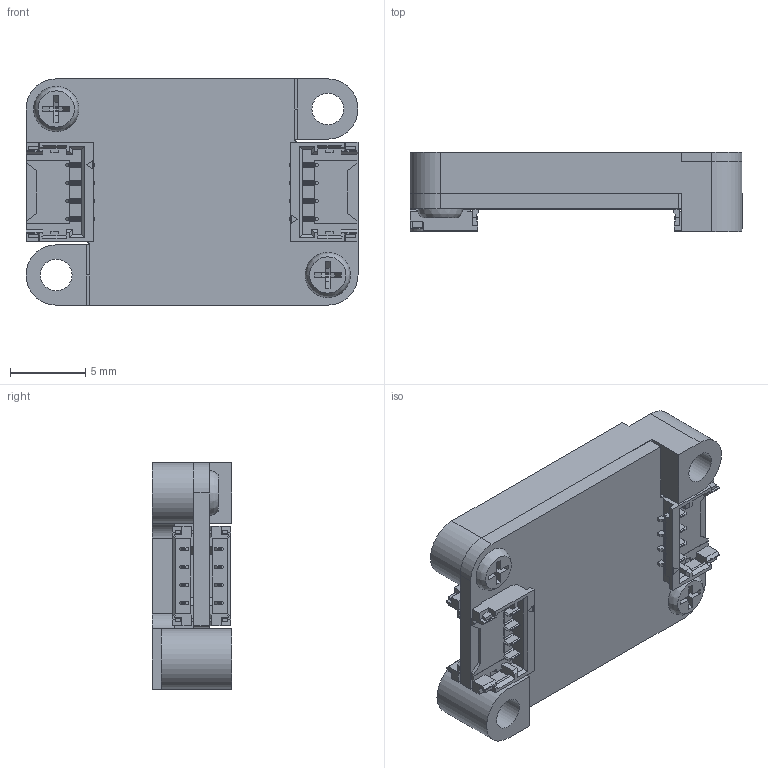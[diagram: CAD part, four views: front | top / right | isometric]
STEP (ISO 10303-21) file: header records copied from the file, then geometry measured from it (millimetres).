
FILE_DESCRIPTION(/* description */ (''),/* implementation_level */ '2;1');
FILE_NAME(/* name */ 'G:\共用雲端硬碟\研發部\RD Project\Inventor Mechanical Design Files\FSS-15 Fine Sun Sensor for Nano-Satellite Attitude Determination\V2.2\FSS-15 V2.2 for Customer.stp',/* time_stamp */ '2022-11-30T19:17:01+08:00',/* author */ ('thoma'),/* organization */ (''),/* preprocessor_version */ 'ST-DEVELOPER v19',/* originating_system */ 'Autodesk Inventor 2023',/* authorisation */ '');
FILE_SCHEMA (('AUTOMOTIVE_DESIGN { 1 0 10303 214 3 1 1 }'));
Length unit declared in the file: millimetre
Products named in the file (6): FSS100 V2 Assembly; FSSV2 PCB Board; FSS Proto-Shell; SNZS-M2-3.5; Quad Segmented Photodiode; 781710004
Assembly tree (8 placements, depth 2):
  FSS100 V2 Assembly
    FSSV2 PCB Board
    FSS Proto-Shell
    781710004  x3
    SNZS-M2-3.5  x2
    Quad Segmented Photodiode
Bounding box: 22 x 5.26 x 15 mm (x, y, z)
Volume: 936.1 mm3; surface area: 2201.3 mm2
Topology: 8 solids, 8 shells, 842 faces, 2334 edges, 1529 vertices
Faces by surface type: plane 788, cylinder 46, cone 6, bspline 2
Full cylindrical faces by diameter (mm): 2 x4, 2.1 x4
Entity records: 11138 total; most frequent: CARTESIAN_POINT 1968, ORIENTED_EDGE 1898, DIRECTION 1751, EDGE_CURVE 949, LINE 871, VECTOR 871, VERTEX_POINT 618, AXIS2_PLACEMENT_3D 440
